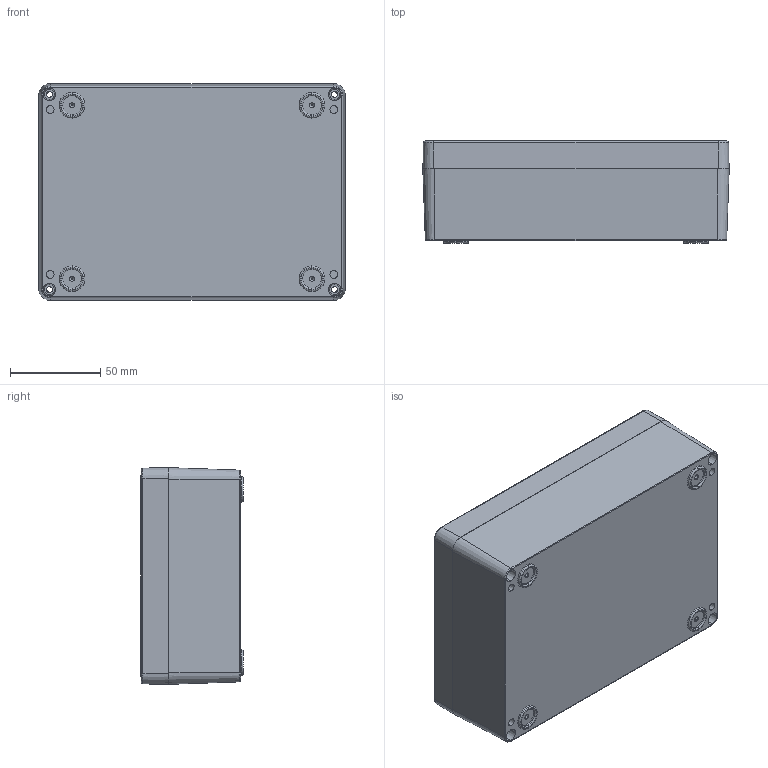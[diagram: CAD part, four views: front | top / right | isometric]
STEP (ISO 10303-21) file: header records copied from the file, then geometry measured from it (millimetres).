
FILE_DESCRIPTION (( 'STEP AP203' ), '1' );
FILE_NAME ('SE-050-0-0.STEP', '2021-08-27T09:09:16', ( '' ), ( '' ), 'SwSTEP 2.0', 'SolidWorks 2021', '' );
FILE_SCHEMA (( 'CONFIG_CONTROL_DESIGN' ));
Length unit declared in the file: millimetre
Products named in the file (3): SE-050-P-1; SE-050-0-0; SE-050-P-2
Assembly tree (2 placements, depth 2):
  SE-050-0-0
    SE-050-P-1
    SE-050-P-2
Bounding box: 170.2 x 57 x 120.4 mm (x, y, z)
Volume: 229110 mm3; surface area: 155232.7 mm2
Topology: 2 solids, 2 shells, 543 faces, 1380 edges, 890 vertices
Faces by surface type: plane 235, cone 192, cylinder 92, torus 24
Entity records: 16743 total; most frequent: DIRECTION 3020, CARTESIAN_POINT 2836, ORIENTED_EDGE 2724, EDGE_CURVE 1362, AXIS2_PLACEMENT_3D 1122, VERTEX_POINT 890, VECTOR 776, LINE 776
